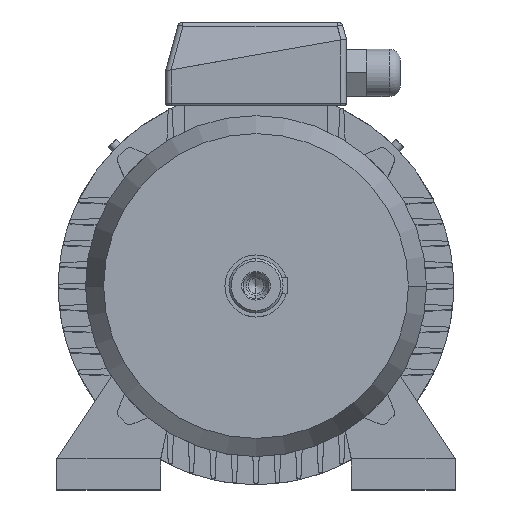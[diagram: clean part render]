
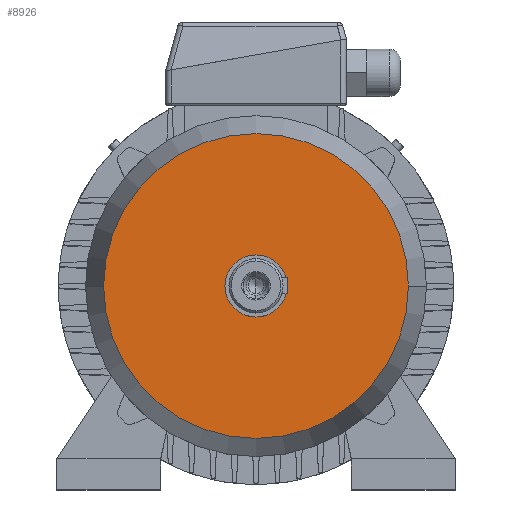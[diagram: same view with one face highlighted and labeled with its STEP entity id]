
A CAD part, top view. The second image highlights one B-rep face of the part: STEP entity #8926.
In plain terms, the highlighted planar face has unit normal (0, 0, 1).
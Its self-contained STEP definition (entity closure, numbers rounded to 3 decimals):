
#2739 = CIRCLE ( 'NONE', #2740, 135. ) ;
#2740 = AXIS2_PLACEMENT_3D ( 'NONE', #2741, #2742, #2743 ) ;
#2741 = CARTESIAN_POINT ( 'NONE',  ( 0., 0., 61. ) ) ;
#2742 = DIRECTION ( 'NONE',  ( 0., 0., -1. ) ) ;
#2743 = DIRECTION ( 'NONE',  ( -1., 0., 0. ) ) ;
#3612 = FACE_OUTER_BOUND ( 'NONE', #8858, .T. ) ;
#3613 = PLANE ( 'NONE',  #3614 ) ;
#3614 = AXIS2_PLACEMENT_3D ( 'NONE', #3615, #3616, #3617 ) ;
#3615 = CARTESIAN_POINT ( 'NONE',  ( 0., 135., 61. ) ) ;
#3616 = DIRECTION ( 'NONE',  ( 0., 0., 1. ) ) ;
#3617 = DIRECTION ( 'NONE',  ( 1., 0., 0. ) ) ;
#5274 = CARTESIAN_POINT ( 'NONE',  ( 135., 0., 61. ) ) ;
#5369 = CARTESIAN_POINT ( 'NONE',  ( -135., 0., 61. ) ) ;
#5497 = CIRCLE ( 'NONE', #5498, 135. ) ;
#5498 = AXIS2_PLACEMENT_3D ( 'NONE', #5499, #5500, #5501 ) ;
#5499 = CARTESIAN_POINT ( 'NONE',  ( 0., 0., 61. ) ) ;
#5500 = DIRECTION ( 'NONE',  ( 0., 0., -1. ) ) ;
#5501 = DIRECTION ( 'NONE',  ( -1., 0., 0. ) ) ;
#8520 = EDGE_CURVE ( 'NONE', #9639, #9698, #2739, .T. ) ;
#8611 = ORIENTED_EDGE ( 'NONE', *, *, #8520, .F. ) ;
#8746 = ORIENTED_EDGE ( 'NONE', *, *, #9757, .F. ) ;
#8858 = EDGE_LOOP ( 'NONE', ( #8746, #8611 ) ) ;
#8926 = ADVANCED_FACE ( 'NONE', ( #3612 ), #3613, .T. ) ;
#9639 = VERTEX_POINT ( 'NONE', #5274 ) ;
#9698 = VERTEX_POINT ( 'NONE', #5369 ) ;
#9757 = EDGE_CURVE ( 'NONE', #9698, #9639, #5497, .T. ) ;
